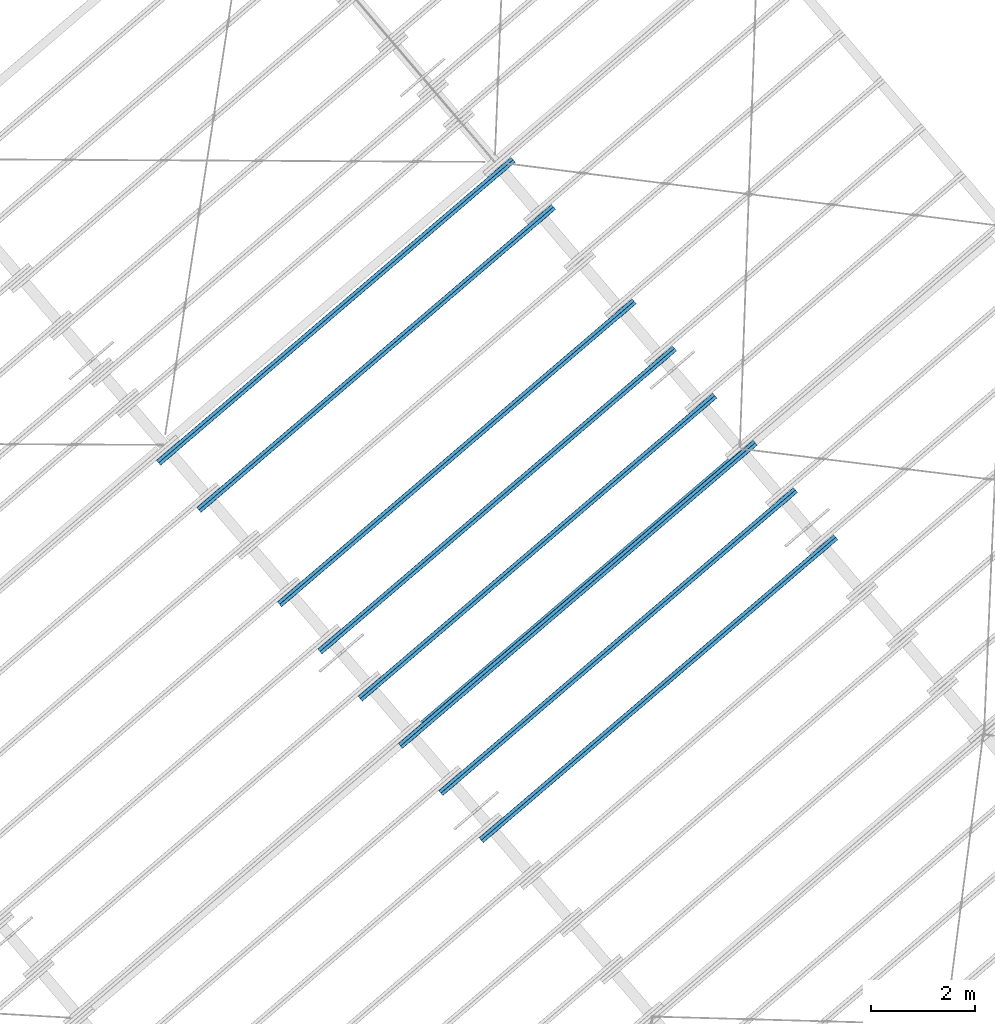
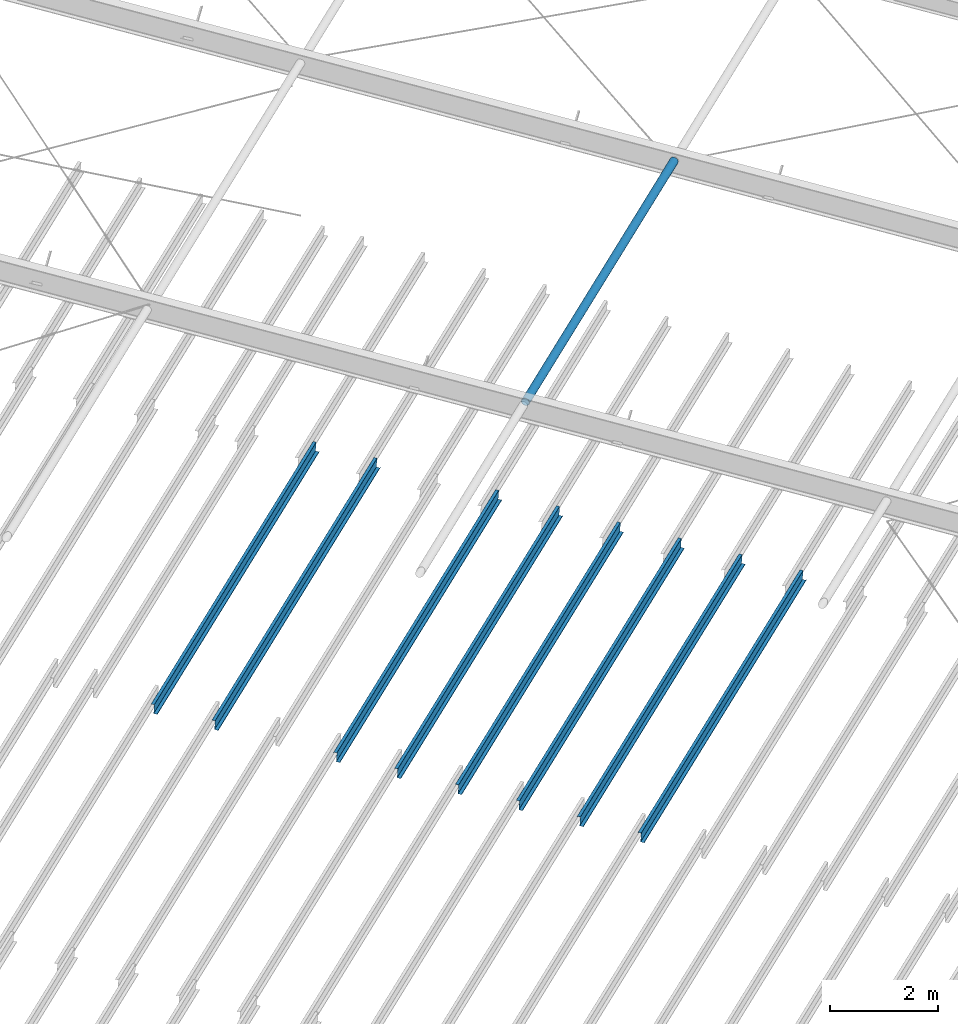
# One storey, part 13 of 25: 9 beams, 1 element without a shape of its own.
"""IFC2X3 building model written with IfcOpenShell, lengths in millimetres."""

import ifcopenshell
import ifcopenshell.guid

model = None  # the IFC model being written
_history = None  # IfcOwnerHistory: only IFC2X3 demands one
_inside = {}  # id of a spatial element -> (the spatial element, [elements in it])
_under = {}  # id of a project, library or spatial element -> (it, [spatial elements below it])
_declared = {}  # id of a project -> (the project, [libraries it declares])
_typed = {}  # id of a type object -> (the type object, [elements of that type])
_made_of = {}  # id of a material, layer set ... -> (it, [elements and type objects made of it])


def new_model(schema):
    """Start an empty IFC model of exactly this schema.

    Asked for "IFC4X3", IfcOpenShell would pick the latest addendum, in which some entities
    have other attributes; the version numbers below select the first issue.
    IFC2X3 requires an IfcOwnerHistory on every rooted entity: one is made here for all.
    """
    global model, _history
    if schema == "IFC4X3":
        model = ifcopenshell.file(schema_version=(4, 3, 0, 0))
    else:
        model = ifcopenshell.file(schema=schema)
    _inside.clear()
    _under.clear()
    _declared.clear()
    _typed.clear()
    _made_of.clear()
    _history = None
    if model.schema == "IFC2X3":
        org = make("IfcOrganization", Name="unknown")
        user = make(
            "IfcPersonAndOrganization",
            ThePerson=make("IfcPerson", FamilyName="unknown"),
            TheOrganization=org,
        )
        app = make(
            "IfcApplication",
            ApplicationDeveloper=org,
            Version="unknown",
            ApplicationFullName="unknown",
            ApplicationIdentifier="unknown",
        )
        _history = make(
            "IfcOwnerHistory",
            OwningUser=user,
            OwningApplication=app,
            ChangeAction="ADDED",
            CreationDate=0,
        )
    return model


def make(cls, **values):
    """One entity of the class cls with the attributes given. An attribute that is None is left unset."""
    return model.create_entity(
        cls, **{name: value for name, value in values.items() if value is not None}
    )


def entity(cls, *values):
    """Any entity or typed value of the class cls, its attributes in the order of the schema. None: left unset."""
    e = model.create_entity(cls)
    for i, value in enumerate(values):
        if value is not None:
            e[i] = value
    return e


def rooted(cls, **values):
    """An entity with a GlobalId (a new one), such as an element, a storey or a relation."""
    return make(cls, GlobalId=ifcopenshell.guid.new(), OwnerHistory=_history, **values)


def si_unit(unit_type, name, prefix=None):
    """IfcSIUnit, for example si_unit("LENGTHUNIT", "METRE", prefix="MILLI")."""
    return make("IfcSIUnit", UnitType=unit_type, Prefix=prefix, Name=name)


def converted_unit(unit_type, name, factor, base, dimensions=None, offset=None):
    """IfcConversionBasedUnit, such as the inch: factor (a typed value) times the base unit."""
    return make(
        "IfcConversionBasedUnit"
        if offset is None
        else "IfcConversionBasedUnitWithOffset",
        ConversionOffset=offset,
        Dimensions=None
        if dimensions is None
        else entity("IfcDimensionalExponents", *dimensions),
        UnitType=unit_type,
        Name=name,
        ConversionFactor=make(
            "IfcMeasureWithUnit", ValueComponent=factor, UnitComponent=base
        ),
    )


def derived_unit(unit_type, elements):
    """IfcDerivedUnit: a product of units, each with its exponent."""
    return make(
        "IfcDerivedUnit",
        Elements=[
            make("IfcDerivedUnitElement", Unit=unit, Exponent=power)
            for unit, power in elements
        ],
        UnitType=unit_type,
    )


def assignment(units):
    """IfcUnitAssignment: the units of a project."""
    return None if units is None else make("IfcUnitAssignment", Units=units)


def point(xyz):
    """IfcCartesianPoint."""
    return None if xyz is None else make("IfcCartesianPoint", Coordinates=xyz)


def direction(xyz):
    """IfcDirection."""
    return None if xyz is None else make("IfcDirection", DirectionRatios=xyz)


def frame(location, z_axis=None, x_axis=None):
    """IfcAxis2Placement3D, a coordinate frame: its origin and axes. An axis left out is left unset."""
    return make(
        "IfcAxis2Placement3D",
        Location=point(location),
        Axis=direction(z_axis),
        RefDirection=direction(x_axis),
    )


def frame_2d(location, x_axis=None):
    """IfcAxis2Placement2D, a coordinate frame in the plane: its origin and x axis."""
    return make(
        "IfcAxis2Placement2D", Location=point(location), RefDirection=direction(x_axis)
    )


def origin():
    """The frame at (0, 0, 0) with its axes left unset."""
    return frame((0.0, 0.0, 0.0))


def origin_2d_with_axis():
    """The frame at (0, 0) in the plane with the x axis (1, 0) written out."""
    return frame_2d((0.0, 0.0), x_axis=(1.0, 0.0))


def place(relative_to, where):
    """IfcLocalPlacement: puts the frame where relative to a parent placement (None: the world)."""
    return make(
        "IfcLocalPlacement", PlacementRelTo=relative_to, RelativePlacement=where
    )


def context(
    kind, dimensions, precision=None, world=None, true_north=None, identifier=None
):
    """IfcGeometricRepresentationContext, for example the 3D "Model" context."""
    return make(
        "IfcGeometricRepresentationContext",
        ContextIdentifier=identifier,
        ContextType=kind,
        CoordinateSpaceDimension=dimensions,
        Precision=precision,
        WorldCoordinateSystem=world,
        TrueNorth=true_north,
    )


def subcontext(parent, identifier, kind, view, scale=None):
    """IfcGeometricRepresentationSubContext, for example "Body" below "Model"."""
    return make(
        "IfcGeometricRepresentationSubContext",
        ContextIdentifier=identifier,
        ContextType=kind,
        ParentContext=parent,
        TargetScale=scale,
        TargetView=view,
    )


def project(units=None, contexts=None):
    """IfcProject with its units and contexts."""
    return rooted(
        "IfcProject",
        Name="project",
        RepresentationContexts=contexts,
        UnitsInContext=assignment(units),
    )


def spatial(cls, under=None, at=None, **own):
    """A site, building, storey or space (cls), placed at a placement, below another one or the project."""
    s = rooted(cls, ObjectPlacement=at, **own)
    if under is not None:
        _under.setdefault(under.id(), (under, []))[1].append(s)
    return s


def polyline(points):
    """IfcPolyline through the points."""
    return make("IfcPolyline", Points=[point(p) for p in points])


def circle_curve(where, radius):
    """IfcCircle in the frame where."""
    return make("IfcCircle", Position=where, Radius=radius)


def parameter(value):
    """IfcParameterValue: where a trimmed curve begins or ends, as a parameter of its basis curve."""
    return model.create_entity("IfcParameterValue", value)


def trimmed(basis, trim1, trim2, sense, master):
    """IfcTrimmedCurve: the piece of a basis curve between two trims."""
    return make(
        "IfcTrimmedCurve",
        BasisCurve=basis,
        Trim1=trim1,
        Trim2=trim2,
        SenseAgreement=sense,
        MasterRepresentation=master,
    )


def segment(curve, same_sense, transition):
    """IfcCompositeCurveSegment."""
    return make(
        "IfcCompositeCurveSegment",
        Transition=transition,
        SameSense=same_sense,
        ParentCurve=curve,
    )


def composite_curve(segments, self_intersect=None):
    """IfcCompositeCurve: segments joined end to end."""
    return make("IfcCompositeCurve", Segments=segments, SelfIntersect=self_intersect)


def profile(cls, at=None, kind="AREA", **sizes):
    """A parametric profile (cls). Its sizes go by their IFC names, for example OverallWidth=200.0."""
    return make(cls, ProfileType=kind, Position=at, **sizes)


def hollow_circle(**sizes):
    """IfcCircleHollowProfileDef."""
    return profile("IfcCircleHollowProfileDef", **sizes)


def outline(outer, holes=None, kind="AREA"):
    """IfcArbitraryClosedProfileDef: a profile drawn as a closed curve; with holes, ...WithVoids."""
    if holes is None:
        return make("IfcArbitraryClosedProfileDef", ProfileType=kind, OuterCurve=outer)
    return make(
        "IfcArbitraryProfileDefWithVoids",
        ProfileType=kind,
        OuterCurve=outer,
        InnerCurves=holes,
    )


def extrude(swept, where, along, depth):
    """IfcExtrudedAreaSolid: the profile swept, set in the frame where, extruded along a direction by depth."""
    return make(
        "IfcExtrudedAreaSolid",
        SweptArea=swept,
        Position=where,
        ExtrudedDirection=direction(along),
        Depth=depth,
    )


def shape(context_of_items, identifier, shape_type, items):
    """IfcShapeRepresentation: the items that make up one representation, for example the "Body"."""
    return make(
        "IfcShapeRepresentation",
        ContextOfItems=context_of_items,
        RepresentationIdentifier=identifier,
        RepresentationType=shape_type,
        Items=items,
    )


def material(Name=None, Category=None):
    """IfcMaterial."""
    return make("IfcMaterial", Name=Name, Category=Category)


def made_of(thing, what):
    """Note that an element or type object is made of a material, layer set ...; save() writes the relation."""
    if what is not None:
        _made_of.setdefault(what.id(), (what, []))[1].append(thing)
    return thing


def type_object(cls, material=None, **own):
    """A type object (cls), such as IfcWallType, which elements share."""
    return made_of(rooted(cls, **own), material)


def element(
    cls,
    number,
    at=None,
    inside=None,
    cuts=None,
    type_object=None,
    material=None,
    context=None,
    identifier="Body",
    shape_type=None,
    held_by="IfcProductDefinitionShape",
    body=None,
    shapes=None,
    **own,
):
    """One element of the class cls, such as IfcWall. Its Tag is "e" and its number.

    at: its placement. inside: the storey or other place that contains it. cuts: it is an
    opening in that element (IfcRelVoidsElement). A single representation is given by context,
    identifier, shape_type and body (its items); several are given by shapes. held_by: the class
    of the entity that holds the representations. save() writes the other relations.
    """
    e = rooted(cls, Tag="e%d" % number, ObjectPlacement=at, **own)
    if body is not None:
        shapes = [shape(context, identifier, shape_type, body)]
    if shapes is not None:
        e.Representation = make(held_by, Representations=shapes)
    if inside is not None:
        _inside.setdefault(inside.id(), (inside, []))[1].append(e)
    if cuts is not None:
        rooted(
            "IfcRelVoidsElement", RelatingBuildingElement=cuts, RelatedOpeningElement=e
        )
    if type_object is not None:
        _typed.setdefault(type_object.id(), (type_object, []))[1].append(e)
    return made_of(e, material)


def aggregate(whole, parts):
    """IfcRelAggregates: a whole, such as a stair, and the parts it consists of."""
    return rooted("IfcRelAggregates", RelatingObject=whole, RelatedObjects=parts)


def save(model, path):
    """Write the relations noted so far, then the file.

    IfcRelAggregates (storeys below a building ...), IfcRelContainedInSpatialStructure (elements
    in a storey), IfcRelDefinesByType, IfcRelAssociatesMaterial and IfcRelDeclares: one each for
    every whole, place, type object, material and project.
    """
    for whole, parts in _under.values():
        aggregate(whole, parts)
    for where, things in _inside.values():
        rooted(
            "IfcRelContainedInSpatialStructure",
            RelatedElements=things,
            RelatingStructure=where,
        )
    for kind, things in _typed.values():
        rooted("IfcRelDefinesByType", RelatedObjects=things, RelatingType=kind)
    for what, things in _made_of.values():
        rooted("IfcRelAssociatesMaterial", RelatedObjects=things, RelatingMaterial=what)
    for by, libraries in _declared.values():
        rooted("IfcRelDeclares", RelatingContext=by, RelatedDefinitions=libraries)
    model.write(path)


model = new_model("IFC2X3")

# Units and contexts
model_context = context("Model", 3, precision=0.01, world=origin(), true_north=direction((6.123031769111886e-17, 1.0)))
body_context = subcontext(model_context, "Body", "Model", "MODEL_VIEW")
ifc_project = project(units=[si_unit("LENGTHUNIT", "METRE", prefix="MILLI"), si_unit("AREAUNIT", "SQUARE_METRE"), si_unit("VOLUMEUNIT", "CUBIC_METRE"), converted_unit("PLANEANGLEUNIT", "DEGREE", entity("IfcRatioMeasure", 0.017453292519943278), si_unit("PLANEANGLEUNIT", "RADIAN"), dimensions=[0, 0, 0, 0, 0, 0, 0]), si_unit("MASSUNIT", "GRAM", prefix="KILO"), derived_unit("MASSDENSITYUNIT", [(si_unit("MASSUNIT", "GRAM", prefix="KILO"), 1), (si_unit("LENGTHUNIT", "METRE"), -3)]), derived_unit("MOMENTOFINERTIAUNIT", [(si_unit("LENGTHUNIT", "METRE"), 4)]), si_unit("TIMEUNIT", "SECOND"), si_unit("FREQUENCYUNIT", "HERTZ"), si_unit("THERMODYNAMICTEMPERATUREUNIT", "DEGREE_CELSIUS"), derived_unit("THERMALTRANSMITTANCEUNIT", [(si_unit("MASSUNIT", "GRAM", prefix="KILO"), 1), (si_unit("THERMODYNAMICTEMPERATUREUNIT", "KELVIN"), -1), (si_unit("TIMEUNIT", "SECOND"), -3)]), derived_unit("VOLUMETRICFLOWRATEUNIT", [(si_unit("LENGTHUNIT", "METRE"), 3), (si_unit("TIMEUNIT", "SECOND"), -1)]), derived_unit("MASSFLOWRATEUNIT", [(si_unit("MASSUNIT", "GRAM", prefix="KILO"), 1), (si_unit("TIMEUNIT", "SECOND"), -1)]), derived_unit("ROTATIONALFREQUENCYUNIT", [(si_unit("TIMEUNIT", "SECOND"), -1)]), si_unit("ELECTRICCURRENTUNIT", "AMPERE"), si_unit("ELECTRICVOLTAGEUNIT", "VOLT"), si_unit("POWERUNIT", "WATT"), si_unit("FORCEUNIT", "NEWTON", prefix="KILO"), si_unit("ILLUMINANCEUNIT", "LUX"), si_unit("LUMINOUSFLUXUNIT", "LUMEN"), si_unit("LUMINOUSINTENSITYUNIT", "CANDELA"), derived_unit("USERDEFINED", [(si_unit("MASSUNIT", "GRAM", prefix="KILO"), -1), (si_unit("LENGTHUNIT", "METRE"), -2), (si_unit("TIMEUNIT", "SECOND"), 3), (si_unit("LUMINOUSFLUXUNIT", "LUMEN"), 1)]), derived_unit("SOUNDPOWERUNIT", [(si_unit("MASSUNIT", "GRAM", prefix="KILO"), 1), (si_unit("LENGTHUNIT", "METRE"), 2), (si_unit("TIMEUNIT", "SECOND"), -3)]), derived_unit("LINEARVELOCITYUNIT", [(si_unit("LENGTHUNIT", "METRE"), 1), (si_unit("TIMEUNIT", "SECOND"), -1)]), si_unit("PRESSUREUNIT", "PASCAL"), derived_unit("USERDEFINED", [(si_unit("LENGTHUNIT", "METRE"), -2), (si_unit("MASSUNIT", "GRAM", prefix="KILO"), 1), (si_unit("TIMEUNIT", "SECOND"), -2)]), derived_unit("LINEARFORCEUNIT", [(si_unit("MASSUNIT", "GRAM", prefix="KILO"), 1), (si_unit("LENGTHUNIT", "METRE"), 1), (si_unit("TIMEUNIT", "SECOND"), -2), (si_unit("LENGTHUNIT", "METRE"), -1)]), derived_unit("PLANARFORCEUNIT", [(si_unit("MASSUNIT", "GRAM", prefix="KILO"), 1), (si_unit("LENGTHUNIT", "METRE"), 1), (si_unit("TIMEUNIT", "SECOND"), -2), (si_unit("LENGTHUNIT", "METRE"), -2)])], contexts=[model_context])

# Site, building, storey
site_placement = place(None, frame((962.4174930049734, -6014.433753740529, 0.0), z_axis=(0.0, 0.0, 1.0), x_axis=(0.7601792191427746, 0.649713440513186, 0.0)))
site = spatial("IfcSite", under=ifc_project, at=site_placement, Name="Default", CompositionType="ELEMENT")
building_placement = place(site_placement, origin())
building = spatial("IfcBuilding", under=site, at=building_placement, CompositionType="ELEMENT")
storey_placement = place(building_placement, frame((0.0, 0.0, 9200.0)))
storey = spatial("IfcBuildingStorey", under=building, at=storey_placement, Name="TOP OF CEILING", CompositionType="ELEMENT", Elevation=9200.000000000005)

# Beam
ifc_material_1 = material(Name="Metal - Steel - 300 MPa")
beam_type_1 = type_object("IfcBeamType", Name="ADSK_AU_CHS-Circular Hollow Sections (AS 1163_C350):168.3x6.4CHS", PredefinedType="NOTDEFINED")
beam_1_placement = place(storey_placement, frame((179118.361158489, -11221.928082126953, 3047.4), z_axis=(-1.615773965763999e-06, 0.0, 1.0), x_axis=(-1.0, 0.0, -1.615773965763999e-06)))
element("IfcBeam", 1, at=beam_1_placement, inside=storey, type_object=beam_type_1, material=ifc_material_1, Name="ADSK_AU_CHS-Circular Hollow Sections (AS 1163_C350):168.3x6.4CHS", ObjectType="ADSK_AU_CHS-Circular Hollow Sections (AS 1163_C350):168.3x6.4CHS", context=body_context, shape_type="SweptSolid", body=[
    extrude(hollow_circle(Radius=84.15000000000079, WallThickness=6.4000000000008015, at=origin_2d_with_axis()), frame((12.800000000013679, 0.0, -84.1500000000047), z_axis=(1.0, 0.0, 0.0), x_axis=(0.0, 1.0, 0.0)), (0.0, 0.0, 1.0), 8262.106404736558),
])

# Assembly, beams
assembly_placement = place(storey_placement, origin())
assembly = element("IfcElementAssembly", 2, at=assembly_placement, inside=storey, Name="Structural Beam System:Structural Beam System 1", ObjectType="Structural Beam System:Structural Beam System 1", AssemblyPlace="NOTDEFINED", PredefinedType="BEAM_GRID")
ifc_material_2 = material(Name="Metal - Steel - 345 MPa")
beam_type_2 = type_object("IfcBeamType", Name="ADSK_AU_Light Gauge-Zeds:Z20015", PredefinedType="NOTDEFINED")
beam_2_placement = place(building_placement, frame((179438.96020471, -4066.625495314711, 3905.6422329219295), z_axis=(0.0, 0.0, 1.0), x_axis=(-1.0, 0.0, 0.0)))
beam_2 = element("IfcBeam", 3, at=beam_2_placement, type_object=beam_type_2, material=ifc_material_2, Name="ADSK_AU_Light Gauge-Zeds:Z20015", ObjectType="ADSK_AU_Light Gauge-Zeds:Z20015", context=body_context, shape_type="SweptSolid", body=[
    extrude(outline(composite_curve([segment(polyline([(100.0, 1.0), (100.0, -69.0)]), True, "CONTINUOUS"), segment(trimmed(circle_curve(frame_2d((98.0, -69.0), x_axis=(0.0, -1.0)), 2.000000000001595), [parameter(0.0)], [parameter(89.99999999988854)], True, "PARAMETER"), False, "CONTINUOUS"), segment(polyline([(98.0, -71.0), (81.49999999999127, -71.0)]), True, "CONTINUOUS"), segment(polyline([(81.49999999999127, -71.0), (81.499999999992, -72.50000000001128)]), True, "CONTINUOUS"), segment(polyline([(81.49999999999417, -72.50000000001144), (98.0, -72.50000000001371)]), True, "CONTINUOUS"), segment(trimmed(circle_curve(frame_2d((98.0, -69.0), x_axis=(1.0, 0.0)), 3.500000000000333), [parameter(270.0000000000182)], [parameter(0.0)], True, "PARAMETER"), True, "CONTINUOUS"), segment(polyline([(101.49999999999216, -69.0), (101.50000000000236, 1.0)]), True, "CONTINUOUS"), segment(trimmed(circle_curve(frame_2d((98.0, 1.0), x_axis=(0.0, 1.0)), 3.500000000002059), [parameter(270.0000000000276)], [parameter(0.0)], True, "PARAMETER"), True, "CONTINUOUS"), segment(polyline([(98.0, 4.499999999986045), (-98.0, 4.500000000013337)]), True, "CONTINUOUS"), segment(trimmed(circle_curve(frame_2d((-98.0, 6.500000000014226), x_axis=(-1.0, 0.0)), 2.0000000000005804), [parameter(0.0)], [parameter(89.99999999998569)], True, "PARAMETER"), False, "CONTINUOUS"), segment(polyline([(-100.0, 6.500000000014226), (-100.0, 64.0)]), True, "CONTINUOUS"), segment(trimmed(circle_curve(frame_2d((-98.0, 64.0), x_axis=(0.0, 1.0)), 2.000000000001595), [parameter(0.0)], [parameter(89.99999999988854)], True, "PARAMETER"), False, "CONTINUOUS"), segment(polyline([(-98.0, 66.0), (-81.49999999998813, 66.0)]), True, "CONTINUOUS"), segment(polyline([(-81.49999999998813, 66.0), (-81.49999999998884, 67.50000000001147)]), True, "CONTINUOUS"), segment(polyline([(-81.499999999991, 67.50000000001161), (-98.0, 67.50000000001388)]), True, "CONTINUOUS"), segment(trimmed(circle_curve(frame_2d((-98.0, 64.0), x_axis=(-1.0, 0.0)), 3.5000000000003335), [parameter(270.0000000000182)], [parameter(0.0)], True, "PARAMETER"), True, "CONTINUOUS"), segment(polyline([(-101.499999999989, 64.0), (-101.49999999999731, 6.500000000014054)]), True, "CONTINUOUS"), segment(trimmed(circle_curve(frame_2d((-98.0, 6.500000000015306), x_axis=(0.0, -1.0)), 3.5000000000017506), [parameter(270.0000000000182)], [parameter(0.0)], True, "PARAMETER"), True, "CONTINUOUS"), segment(polyline([(-98.0, 3.0), (98.0, 3.0)]), True, "CONTINUOUS"), segment(trimmed(circle_curve(frame_2d((98.0, 1.0), x_axis=(1.0, 0.0)), 2.0000000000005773), [parameter(0.0)], [parameter(89.99999999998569)], True, "PARAMETER"), False, "CONTINUOUS")], self_intersect=False)), frame((0.0, -2.5912438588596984, -101.56665523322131), z_axis=(-1.0, 0.0, 0.0), x_axis=(0.0, -0.06975647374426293, -0.9975640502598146)), (0.0, 0.0, -1.0), 9000.000000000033),
])
beam_3_placement = place(building_placement, frame((179438.96020471, -5263.7023556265, 3821.9344644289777), z_axis=(0.0, 0.0, 1.0), x_axis=(-1.0, 0.0, 0.0)))
beam_3 = element("IfcBeam", 4, at=beam_3_placement, type_object=beam_type_2, material=ifc_material_2, Name="ADSK_AU_Light Gauge-Zeds:Z20015", ObjectType="ADSK_AU_Light Gauge-Zeds:Z20015", context=body_context, shape_type="SweptSolid", body=[
    extrude(outline(composite_curve([segment(polyline([(100.0, 1.0), (100.0, -69.0)]), True, "CONTINUOUS"), segment(trimmed(circle_curve(frame_2d((98.0, -69.0), x_axis=(0.0, -1.0)), 2.000000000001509), [parameter(0.0)], [parameter(89.99999999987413)], True, "PARAMETER"), False, "CONTINUOUS"), segment(polyline([(98.0, -71.0), (81.49999999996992, -71.0)]), True, "CONTINUOUS"), segment(polyline([(81.49999999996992, -71.0), (81.49999999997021, -72.50000000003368)]), True, "CONTINUOUS"), segment(polyline([(81.49999999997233, -72.50000000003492), (98.0, -72.5000000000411)]), True, "CONTINUOUS"), segment(trimmed(circle_curve(frame_2d((98.0, -69.0), x_axis=(1.0, 0.0)), 3.5000000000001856), [parameter(270.0000000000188)], [parameter(0.0)], True, "PARAMETER"), True, "CONTINUOUS"), segment(polyline([(101.49999999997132, -69.0), (101.5000000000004, 1.0)]), True, "CONTINUOUS"), segment(trimmed(circle_curve(frame_2d((98.0, 1.0), x_axis=(0.0, 1.0)), 3.5000000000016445), [parameter(269.9999999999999)], [parameter(0.0)], True, "PARAMETER"), True, "CONTINUOUS"), segment(polyline([(98.0, 4.499999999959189), (-98.0, 4.500000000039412)]), True, "CONTINUOUS"), segment(trimmed(circle_curve(frame_2d((-98.0, 6.500000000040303), x_axis=(-1.0, 0.0)), 2.000000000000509), [parameter(0.0)], [parameter(89.99999999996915)], True, "PARAMETER"), False, "CONTINUOUS"), segment(polyline([(-100.0, 6.500000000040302), (-100.0, 64.0)]), True, "CONTINUOUS"), segment(trimmed(circle_curve(frame_2d((-98.0, 64.0), x_axis=(0.0, 1.0)), 2.000000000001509), [parameter(0.0)], [parameter(89.99999999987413)], True, "PARAMETER"), False, "CONTINUOUS"), segment(polyline([(-98.0, 66.0), (-81.49999999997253, 66.0)]), True, "CONTINUOUS"), segment(polyline([(-81.49999999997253, 66.0), (-81.49999999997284, 67.50000000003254)]), True, "CONTINUOUS"), segment(polyline([(-81.49999999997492, 67.50000000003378), (-98.0, 67.50000000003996)]), True, "CONTINUOUS"), segment(trimmed(circle_curve(frame_2d((-98.0, 64.0), x_axis=(-1.0, 0.0)), 3.5000000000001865), [parameter(270.0000000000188)], [parameter(0.0)], True, "PARAMETER"), True, "CONTINUOUS"), segment(polyline([(-101.49999999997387, 64.0), (-101.49999999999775, 6.500000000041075)]), True, "CONTINUOUS"), segment(trimmed(circle_curve(frame_2d((-98.0, 6.500000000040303), x_axis=(0.0, -1.0)), 3.500000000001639), [parameter(269.9999999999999)], [parameter(0.0)], True, "PARAMETER"), True, "CONTINUOUS"), segment(polyline([(-98.0, 3.0), (98.0, 3.0)]), True, "CONTINUOUS"), segment(trimmed(circle_curve(frame_2d((98.0, 1.0), x_axis=(1.0, 0.0)), 2.000000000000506), [parameter(0.0)], [parameter(89.99999999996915)], True, "PARAMETER"), False, "CONTINUOUS")], self_intersect=False)), frame((0.0, -2.5912438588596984, -101.56665523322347), z_axis=(-1.0, 0.0, 0.0), x_axis=(0.0, -0.06975647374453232, -0.9975640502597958)), (0.0, 0.0, -1.0), 9000.000000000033),
])
beam_4_placement = place(building_placement, frame((179438.96020471, -7657.856076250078, 3654.5189274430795), z_axis=(0.0, 0.0, 1.0), x_axis=(-1.0, 0.0, 0.0)))
beam_4 = element("IfcBeam", 5, at=beam_4_placement, type_object=beam_type_2, material=ifc_material_2, Name="ADSK_AU_Light Gauge-Zeds:Z20015", ObjectType="ADSK_AU_Light Gauge-Zeds:Z20015", context=body_context, shape_type="SweptSolid", body=[
    extrude(outline(composite_curve([segment(polyline([(100.0, 1.0), (100.0, -69.0)]), True, "CONTINUOUS"), segment(trimmed(circle_curve(frame_2d((98.0, -69.0), x_axis=(0.0, -1.0)), 2.000000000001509), [parameter(0.0)], [parameter(89.99999999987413)], True, "PARAMETER"), False, "CONTINUOUS"), segment(polyline([(98.0, -71.0), (81.49999999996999, -71.0)]), True, "CONTINUOUS"), segment(polyline([(81.49999999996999, -71.0), (81.49999999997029, -72.5000000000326)]), True, "CONTINUOUS"), segment(polyline([(81.4999999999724, -72.50000000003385), (98.0, -72.50000000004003)]), True, "CONTINUOUS"), segment(trimmed(circle_curve(frame_2d((98.0, -69.0), x_axis=(1.0, 0.0)), 3.5000000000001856), [parameter(270.0000000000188)], [parameter(0.0)], True, "PARAMETER"), True, "CONTINUOUS"), segment(polyline([(101.49999999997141, -69.0), (101.50000000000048, 1.0)]), True, "CONTINUOUS"), segment(trimmed(circle_curve(frame_2d((98.0, 1.0), x_axis=(0.0, 1.0)), 3.5000000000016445), [parameter(269.9999999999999)], [parameter(0.0)], True, "PARAMETER"), True, "CONTINUOUS"), segment(polyline([(98.0, 4.499999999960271), (-98.0, 4.500000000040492)]), True, "CONTINUOUS"), segment(trimmed(circle_curve(frame_2d((-98.0, 6.500000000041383), x_axis=(-1.0, 0.0)), 2.000000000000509), [parameter(0.0)], [parameter(89.99999999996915)], True, "PARAMETER"), False, "CONTINUOUS"), segment(polyline([(-100.0, 6.500000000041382), (-100.0, 64.0)]), True, "CONTINUOUS"), segment(trimmed(circle_curve(frame_2d((-98.0, 64.0), x_axis=(0.0, 1.0)), 2.000000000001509), [parameter(0.0)], [parameter(89.99999999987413)], True, "PARAMETER"), False, "CONTINUOUS"), segment(polyline([(-98.0, 66.0), (-81.49999999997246, 66.0)]), True, "CONTINUOUS"), segment(polyline([(-81.49999999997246, 66.0), (-81.49999999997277, 67.50000000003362)]), True, "CONTINUOUS"), segment(polyline([(-81.49999999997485, 67.50000000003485), (-98.0, 67.50000000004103)]), True, "CONTINUOUS"), segment(trimmed(circle_curve(frame_2d((-98.0, 64.0), x_axis=(-1.0, 0.0)), 3.5000000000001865), [parameter(270.0000000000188)], [parameter(0.0)], True, "PARAMETER"), True, "CONTINUOUS"), segment(polyline([(-101.4999999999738, 64.0), (-101.49999999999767, 6.500000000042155)]), True, "CONTINUOUS"), segment(trimmed(circle_curve(frame_2d((-98.0, 6.500000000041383), x_axis=(0.0, -1.0)), 3.500000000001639), [parameter(269.9999999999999)], [parameter(0.0)], True, "PARAMETER"), True, "CONTINUOUS"), segment(polyline([(-98.0, 3.0), (98.0, 3.0)]), True, "CONTINUOUS"), segment(trimmed(circle_curve(frame_2d((98.0, 1.0), x_axis=(1.0, 0.0)), 2.000000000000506), [parameter(0.0)], [parameter(89.99999999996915)], True, "PARAMETER"), False, "CONTINUOUS")], self_intersect=False)), frame((0.0, -2.5912438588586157, -101.56665523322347), z_axis=(-1.0, 0.0, 0.0), x_axis=(0.0, -0.06975647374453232, -0.9975640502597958)), (0.0, 0.0, -1.0), 9000.000000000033),
])
beam_5_placement = place(building_placement, frame((179438.96020471, -8854.932936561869, 3570.8111589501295), z_axis=(0.0, 0.0, 1.0), x_axis=(-1.0, 0.0, 0.0)))
beam_5 = element("IfcBeam", 6, at=beam_5_placement, type_object=beam_type_2, material=ifc_material_2, Name="ADSK_AU_Light Gauge-Zeds:Z20015", ObjectType="ADSK_AU_Light Gauge-Zeds:Z20015", context=body_context, shape_type="SweptSolid", body=[
    extrude(outline(composite_curve([segment(polyline([(100.0, 1.0), (100.0, -69.0)]), True, "CONTINUOUS"), segment(trimmed(circle_curve(frame_2d((98.0, -69.0), x_axis=(0.0, -1.0)), 2.000000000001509), [parameter(0.0)], [parameter(89.99999999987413)], True, "PARAMETER"), False, "CONTINUOUS"), segment(polyline([(98.0, -71.0), (81.49999999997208, -71.0)]), True, "CONTINUOUS"), segment(polyline([(81.49999999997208, -71.0), (81.49999999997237, -72.50000000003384)]), True, "CONTINUOUS"), segment(polyline([(81.49999999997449, -72.50000000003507), (98.0, -72.50000000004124)]), True, "CONTINUOUS"), segment(trimmed(circle_curve(frame_2d((98.0, -69.0), x_axis=(1.0, 0.0)), 3.5000000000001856), [parameter(270.0000000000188)], [parameter(0.0)], True, "PARAMETER"), True, "CONTINUOUS"), segment(polyline([(101.49999999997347, -69.0), (101.50000000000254, 1.0)]), True, "CONTINUOUS"), segment(trimmed(circle_curve(frame_2d((98.0, 1.0), x_axis=(0.0, 1.0)), 3.5000000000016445), [parameter(269.9999999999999)], [parameter(0.0)], True, "PARAMETER"), True, "CONTINUOUS"), segment(polyline([(98.0, 4.499999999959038), (-98.0, 4.500000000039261)]), True, "CONTINUOUS"), segment(trimmed(circle_curve(frame_2d((-98.0, 6.500000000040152), x_axis=(-1.0, 0.0)), 2.000000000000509), [parameter(0.0)], [parameter(89.99999999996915)], True, "PARAMETER"), False, "CONTINUOUS"), segment(polyline([(-100.0, 6.500000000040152), (-100.0, 64.0)]), True, "CONTINUOUS"), segment(trimmed(circle_curve(frame_2d((-98.0, 64.0), x_axis=(0.0, 1.0)), 2.000000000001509), [parameter(0.0)], [parameter(89.99999999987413)], True, "PARAMETER"), False, "CONTINUOUS"), segment(polyline([(-98.0, 66.0), (-81.49999999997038, 66.0)]), True, "CONTINUOUS"), segment(polyline([(-81.49999999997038, 66.0), (-81.49999999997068, 67.5000000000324)]), True, "CONTINUOUS"), segment(polyline([(-81.49999999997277, 67.50000000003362), (-98.0, 67.5000000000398)]), True, "CONTINUOUS"), segment(trimmed(circle_curve(frame_2d((-98.0, 64.0), x_axis=(-1.0, 0.0)), 3.5000000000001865), [parameter(270.0000000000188)], [parameter(0.0)], True, "PARAMETER"), True, "CONTINUOUS"), segment(polyline([(-101.4999999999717, 64.0), (-101.4999999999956, 6.500000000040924)]), True, "CONTINUOUS"), segment(trimmed(circle_curve(frame_2d((-98.0, 6.500000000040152), x_axis=(0.0, -1.0)), 3.500000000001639), [parameter(269.9999999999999)], [parameter(0.0)], True, "PARAMETER"), True, "CONTINUOUS"), segment(polyline([(-98.0, 3.0), (98.0, 3.0)]), True, "CONTINUOUS"), segment(trimmed(circle_curve(frame_2d((98.0, 1.0), x_axis=(1.0, 0.0)), 2.000000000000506), [parameter(0.0)], [parameter(89.99999999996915)], True, "PARAMETER"), False, "CONTINUOUS")], self_intersect=False)), frame((0.0, -2.5912438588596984, -101.56665523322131), z_axis=(-1.0, 0.0, 0.0), x_axis=(0.0, -0.06975647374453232, -0.9975640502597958)), (0.0, 0.0, -1.0), 9000.000000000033),
])
beam_6_placement = place(building_placement, frame((179438.96020471, -10052.009796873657, 3487.1033904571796), z_axis=(0.0, 0.0, 1.0), x_axis=(-1.0, 0.0, 0.0)))
beam_6 = element("IfcBeam", 7, at=beam_6_placement, type_object=beam_type_2, material=ifc_material_2, Name="ADSK_AU_Light Gauge-Zeds:Z20015", ObjectType="ADSK_AU_Light Gauge-Zeds:Z20015", context=body_context, shape_type="SweptSolid", body=[
    extrude(outline(composite_curve([segment(polyline([(100.0, 1.0), (100.0, -69.0)]), True, "CONTINUOUS"), segment(trimmed(circle_curve(frame_2d((98.0, -69.0), x_axis=(0.0, -1.0)), 2.000000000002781), [parameter(0.0)], [parameter(89.99999999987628)], True, "PARAMETER"), False, "CONTINUOUS"), segment(polyline([(98.0, -71.0), (81.49999999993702, -71.0)]), True, "CONTINUOUS"), segment(polyline([(81.49999999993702, -71.0), (81.49999999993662, -72.50000000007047)]), True, "CONTINUOUS"), segment(polyline([(81.49999999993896, -72.50000000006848), (98.0, -72.5000000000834)]), True, "CONTINUOUS"), segment(trimmed(circle_curve(frame_2d((98.0, -69.0), x_axis=(1.0, 0.0)), 3.5000000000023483), [parameter(270.00000000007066)], [parameter(0.0)], True, "PARAMETER"), True, "CONTINUOUS"), segment(polyline([(101.49999999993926, -69.0), (101.50000000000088, 1.0)]), True, "CONTINUOUS"), segment(trimmed(circle_curve(frame_2d((98.0, 1.0), x_axis=(0.0, 1.0)), 3.500000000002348), [parameter(270.00000000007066)], [parameter(0.0)], True, "PARAMETER"), True, "CONTINUOUS"), segment(polyline([(98.0, 4.49999999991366), (-98.0, 4.500000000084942)]), True, "CONTINUOUS"), segment(trimmed(circle_curve(frame_2d((-98.0, 6.500000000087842), x_axis=(-1.0, 0.0)), 2.0000000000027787), [parameter(0.0)], [parameter(89.99999999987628)], True, "PARAMETER"), False, "CONTINUOUS"), segment(polyline([(-100.0, 6.500000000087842), (-100.0, 64.0)]), True, "CONTINUOUS"), segment(trimmed(circle_curve(frame_2d((-98.0, 64.0), x_axis=(0.0, 1.0)), 2.000000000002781), [parameter(0.0)], [parameter(89.99999999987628)], True, "PARAMETER"), False, "CONTINUOUS"), segment(polyline([(-98.0, 66.0), (-81.49999999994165, 66.0)]), True, "CONTINUOUS"), segment(polyline([(-81.4999999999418, 66.0), (-81.49999999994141, 67.5000000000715)]), True, "CONTINUOUS"), segment(polyline([(-81.49999999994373, 67.50000000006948), (-98.0, 67.50000000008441)]), True, "CONTINUOUS"), segment(trimmed(circle_curve(frame_2d((-98.0, 64.0), x_axis=(-1.0, 0.0)), 3.500000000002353), [parameter(270.00000000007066)], [parameter(0.0)], True, "PARAMETER"), True, "CONTINUOUS"), segment(polyline([(-101.49999999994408, 64.0), (-101.4999999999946, 6.500000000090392)]), True, "CONTINUOUS"), segment(trimmed(circle_curve(frame_2d((-98.0, 6.500000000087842), x_axis=(0.0, -1.0)), 3.5000000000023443), [parameter(270.00000000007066)], [parameter(0.0)], True, "PARAMETER"), True, "CONTINUOUS"), segment(polyline([(-98.0, 3.0), (98.0, 3.0)]), True, "CONTINUOUS"), segment(trimmed(circle_curve(frame_2d((98.0, 1.0), x_axis=(1.0, 0.0)), 2.000000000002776), [parameter(0.0)], [parameter(89.99999999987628)], True, "PARAMETER"), False, "CONTINUOUS")], self_intersect=False)), frame((0.0, -2.5912438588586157, -101.56665523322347), z_axis=(-1.0, 0.0, 0.0), x_axis=(0.0, -0.06975647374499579, -0.9975640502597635)), (0.0, 0.0, -1.0), 9000.000000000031),
])
beam_7_placement = place(building_placement, frame((179438.96020471, -11249.086657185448, 3403.3956219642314), z_axis=(0.0, 0.0, 1.0), x_axis=(-1.0, 0.0, 0.0)))
beam_7 = element("IfcBeam", 8, at=beam_7_placement, type_object=beam_type_2, material=ifc_material_2, Name="ADSK_AU_Light Gauge-Zeds:Z20015", ObjectType="ADSK_AU_Light Gauge-Zeds:Z20015", context=body_context, shape_type="SweptSolid", body=[
    extrude(outline(composite_curve([segment(polyline([(100.0, 1.0), (100.0, -69.0)]), True, "CONTINUOUS"), segment(trimmed(circle_curve(frame_2d((98.0, -69.0), x_axis=(0.0, -1.0)), 2.000000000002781), [parameter(0.0)], [parameter(89.99999999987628)], True, "PARAMETER"), False, "CONTINUOUS"), segment(polyline([(98.0, -71.0), (81.49999999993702, -71.0)]), True, "CONTINUOUS"), segment(polyline([(81.49999999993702, -71.0), (81.49999999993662, -72.50000000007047)]), True, "CONTINUOUS"), segment(polyline([(81.49999999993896, -72.50000000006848), (98.0, -72.5000000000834)]), True, "CONTINUOUS"), segment(trimmed(circle_curve(frame_2d((98.0, -69.0), x_axis=(1.0, 0.0)), 3.5000000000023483), [parameter(270.00000000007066)], [parameter(0.0)], True, "PARAMETER"), True, "CONTINUOUS"), segment(polyline([(101.49999999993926, -69.0), (101.50000000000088, 1.0)]), True, "CONTINUOUS"), segment(trimmed(circle_curve(frame_2d((98.0, 1.0), x_axis=(0.0, 1.0)), 3.500000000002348), [parameter(270.00000000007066)], [parameter(0.0)], True, "PARAMETER"), True, "CONTINUOUS"), segment(polyline([(98.0, 4.49999999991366), (-98.0, 4.500000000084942)]), True, "CONTINUOUS"), segment(trimmed(circle_curve(frame_2d((-98.0, 6.500000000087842), x_axis=(-1.0, 0.0)), 2.0000000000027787), [parameter(0.0)], [parameter(89.99999999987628)], True, "PARAMETER"), False, "CONTINUOUS"), segment(polyline([(-100.0, 6.500000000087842), (-100.0, 64.0)]), True, "CONTINUOUS"), segment(trimmed(circle_curve(frame_2d((-98.0, 64.0), x_axis=(0.0, 1.0)), 2.000000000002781), [parameter(0.0)], [parameter(89.99999999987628)], True, "PARAMETER"), False, "CONTINUOUS"), segment(polyline([(-98.0, 66.0), (-81.49999999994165, 66.0)]), True, "CONTINUOUS"), segment(polyline([(-81.4999999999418, 66.0), (-81.49999999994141, 67.5000000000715)]), True, "CONTINUOUS"), segment(polyline([(-81.49999999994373, 67.50000000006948), (-98.0, 67.50000000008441)]), True, "CONTINUOUS"), segment(trimmed(circle_curve(frame_2d((-98.0, 64.0), x_axis=(-1.0, 0.0)), 3.500000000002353), [parameter(270.00000000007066)], [parameter(0.0)], True, "PARAMETER"), True, "CONTINUOUS"), segment(polyline([(-101.49999999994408, 64.0), (-101.4999999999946, 6.500000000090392)]), True, "CONTINUOUS"), segment(trimmed(circle_curve(frame_2d((-98.0, 6.500000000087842), x_axis=(0.0, -1.0)), 3.5000000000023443), [parameter(270.00000000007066)], [parameter(0.0)], True, "PARAMETER"), True, "CONTINUOUS"), segment(polyline([(-98.0, 3.0), (98.0, 3.0)]), True, "CONTINUOUS"), segment(trimmed(circle_curve(frame_2d((98.0, 1.0), x_axis=(1.0, 0.0)), 2.000000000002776), [parameter(0.0)], [parameter(89.99999999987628)], True, "PARAMETER"), False, "CONTINUOUS")], self_intersect=False)), frame((0.0, -2.5912438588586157, -101.56665523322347), z_axis=(-1.0, 0.0, 0.0), x_axis=(0.0, -0.06975647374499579, -0.9975640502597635)), (0.0, 0.0, -1.0), 9000.000000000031),
])
beam_8_placement = place(building_placement, frame((179438.96020471, -12446.163517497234, 3319.6878534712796), z_axis=(0.0, 0.0, 1.0), x_axis=(-1.0, 0.0, 0.0)))
beam_8 = element("IfcBeam", 9, at=beam_8_placement, type_object=beam_type_2, material=ifc_material_2, Name="ADSK_AU_Light Gauge-Zeds:Z20015", ObjectType="ADSK_AU_Light Gauge-Zeds:Z20015", context=body_context, shape_type="SweptSolid", body=[
    extrude(outline(composite_curve([segment(polyline([(100.0, 1.0), (100.0, -69.0)]), True, "CONTINUOUS"), segment(trimmed(circle_curve(frame_2d((98.0, -69.0), x_axis=(0.0, -1.0)), 2.000000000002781), [parameter(0.0)], [parameter(89.99999999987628)], True, "PARAMETER"), False, "CONTINUOUS"), segment(polyline([(98.0, -71.0), (81.4999999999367, -71.0)]), True, "CONTINUOUS"), segment(polyline([(81.4999999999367, -71.0), (81.49999999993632, -72.50000000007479)]), True, "CONTINUOUS"), segment(polyline([(81.49999999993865, -72.5000000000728), (98.0, -72.50000000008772)]), True, "CONTINUOUS"), segment(trimmed(circle_curve(frame_2d((98.0, -69.0), x_axis=(1.0, 0.0)), 3.5000000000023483), [parameter(270.00000000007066)], [parameter(0.0)], True, "PARAMETER"), True, "CONTINUOUS"), segment(polyline([(101.49999999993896, -69.0), (101.50000000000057, 1.0)]), True, "CONTINUOUS"), segment(trimmed(circle_curve(frame_2d((98.0, 1.0), x_axis=(0.0, 1.0)), 3.500000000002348), [parameter(270.00000000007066)], [parameter(0.0)], True, "PARAMETER"), True, "CONTINUOUS"), segment(polyline([(98.0, 4.49999999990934), (-98.0, 4.500000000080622)]), True, "CONTINUOUS"), segment(trimmed(circle_curve(frame_2d((-98.0, 6.500000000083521), x_axis=(-1.0, 0.0)), 2.0000000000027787), [parameter(0.0)], [parameter(89.99999999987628)], True, "PARAMETER"), False, "CONTINUOUS"), segment(polyline([(-100.0, 6.500000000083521), (-100.0, 64.0)]), True, "CONTINUOUS"), segment(trimmed(circle_curve(frame_2d((-98.0, 64.0), x_axis=(0.0, 1.0)), 2.000000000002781), [parameter(0.0)], [parameter(89.99999999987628)], True, "PARAMETER"), False, "CONTINUOUS"), segment(polyline([(-98.0, 66.0), (-81.49999999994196, 66.0)]), True, "CONTINUOUS"), segment(polyline([(-81.4999999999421, 66.0), (-81.4999999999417, 67.50000000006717)]), True, "CONTINUOUS"), segment(polyline([(-81.49999999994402, 67.50000000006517), (-98.0, 67.50000000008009)]), True, "CONTINUOUS"), segment(trimmed(circle_curve(frame_2d((-98.0, 64.0), x_axis=(-1.0, 0.0)), 3.500000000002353), [parameter(270.00000000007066)], [parameter(0.0)], True, "PARAMETER"), True, "CONTINUOUS"), segment(polyline([(-101.49999999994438, 64.0), (-101.4999999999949, 6.500000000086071)]), True, "CONTINUOUS"), segment(trimmed(circle_curve(frame_2d((-98.0, 6.500000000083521), x_axis=(0.0, -1.0)), 3.5000000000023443), [parameter(270.00000000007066)], [parameter(0.0)], True, "PARAMETER"), True, "CONTINUOUS"), segment(polyline([(-98.0, 3.0), (98.0, 3.0)]), True, "CONTINUOUS"), segment(trimmed(circle_curve(frame_2d((98.0, 1.0), x_axis=(1.0, 0.0)), 2.000000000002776), [parameter(0.0)], [parameter(89.99999999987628)], True, "PARAMETER"), False, "CONTINUOUS")], self_intersect=False)), frame((0.0, -2.591243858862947, -101.56665523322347), z_axis=(-1.0, 0.0, 0.0), x_axis=(0.0, -0.06975647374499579, -0.9975640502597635)), (0.0, 0.0, -1.0), 9000.000000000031),
])
beam_9_placement = place(building_placement, frame((179438.96020471, -13643.240377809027, 3235.9800849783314), z_axis=(0.0, 0.0, 1.0), x_axis=(-1.0, 0.0, 0.0)))
beam_9 = element("IfcBeam", 10, at=beam_9_placement, type_object=beam_type_2, material=ifc_material_2, Name="ADSK_AU_Light Gauge-Zeds:Z20015", ObjectType="ADSK_AU_Light Gauge-Zeds:Z20015", context=body_context, shape_type="SweptSolid", body=[
    extrude(outline(composite_curve([segment(polyline([(100.0, 1.0), (100.0, -69.0)]), True, "CONTINUOUS"), segment(trimmed(circle_curve(frame_2d((98.0, -69.0), x_axis=(0.0, -1.0)), 2.000000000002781), [parameter(0.0)], [parameter(89.99999999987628)], True, "PARAMETER"), False, "CONTINUOUS"), segment(polyline([(98.0, -71.0), (81.49999999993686, -71.0)]), True, "CONTINUOUS"), segment(polyline([(81.49999999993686, -71.0), (81.49999999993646, -72.50000000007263)]), True, "CONTINUOUS"), segment(polyline([(81.49999999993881, -72.50000000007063), (98.0, -72.50000000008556)]), True, "CONTINUOUS"), segment(trimmed(circle_curve(frame_2d((98.0, -69.0), x_axis=(1.0, 0.0)), 3.5000000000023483), [parameter(270.00000000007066)], [parameter(0.0)], True, "PARAMETER"), True, "CONTINUOUS"), segment(polyline([(101.49999999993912, -69.0), (101.50000000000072, 1.0)]), True, "CONTINUOUS"), segment(trimmed(circle_curve(frame_2d((98.0, 1.0), x_axis=(0.0, 1.0)), 3.500000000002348), [parameter(270.00000000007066)], [parameter(0.0)], True, "PARAMETER"), True, "CONTINUOUS"), segment(polyline([(98.0, 4.4999999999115), (-98.0, 4.500000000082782)]), True, "CONTINUOUS"), segment(trimmed(circle_curve(frame_2d((-98.0, 6.500000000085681), x_axis=(-1.0, 0.0)), 2.0000000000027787), [parameter(0.0)], [parameter(89.99999999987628)], True, "PARAMETER"), False, "CONTINUOUS"), segment(polyline([(-100.0, 6.500000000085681), (-100.0, 64.0)]), True, "CONTINUOUS"), segment(trimmed(circle_curve(frame_2d((-98.0, 64.0), x_axis=(0.0, 1.0)), 2.000000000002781), [parameter(0.0)], [parameter(89.99999999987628)], True, "PARAMETER"), False, "CONTINUOUS"), segment(polyline([(-98.0, 66.0), (-81.4999999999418, 66.0)]), True, "CONTINUOUS"), segment(polyline([(-81.49999999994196, 66.0), (-81.49999999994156, 67.50000000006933)]), True, "CONTINUOUS"), segment(polyline([(-81.49999999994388, 67.50000000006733), (-98.0, 67.50000000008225)]), True, "CONTINUOUS"), segment(trimmed(circle_curve(frame_2d((-98.0, 64.0), x_axis=(-1.0, 0.0)), 3.500000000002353), [parameter(270.00000000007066)], [parameter(0.0)], True, "PARAMETER"), True, "CONTINUOUS"), segment(polyline([(-101.49999999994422, 64.0), (-101.49999999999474, 6.500000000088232)]), True, "CONTINUOUS"), segment(trimmed(circle_curve(frame_2d((-98.0, 6.500000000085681), x_axis=(0.0, -1.0)), 3.5000000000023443), [parameter(270.00000000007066)], [parameter(0.0)], True, "PARAMETER"), True, "CONTINUOUS"), segment(polyline([(-98.0, 3.0), (98.0, 3.0)]), True, "CONTINUOUS"), segment(trimmed(circle_curve(frame_2d((98.0, 1.0), x_axis=(1.0, 0.0)), 2.000000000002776), [parameter(0.0)], [parameter(89.99999999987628)], True, "PARAMETER"), False, "CONTINUOUS")], self_intersect=False)), frame((0.0, -2.5912438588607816, -101.56665523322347), z_axis=(-1.0, 0.0, 0.0), x_axis=(0.0, -0.06975647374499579, -0.9975640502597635)), (0.0, 0.0, -1.0), 9000.000000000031),
])
aggregate(assembly, [beam_2, beam_3, beam_4, beam_5, beam_6, beam_7, beam_8, beam_9])

save(model, "model.ifc")
